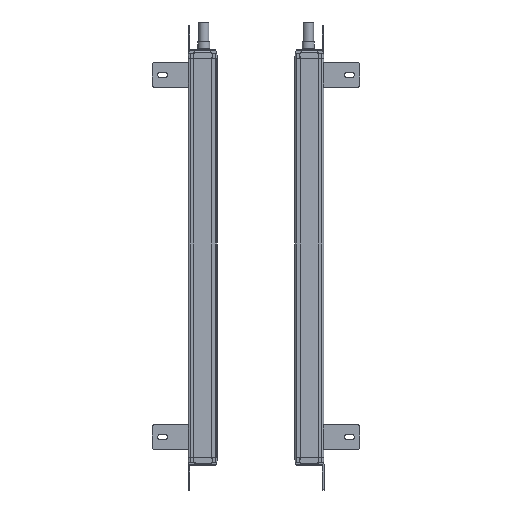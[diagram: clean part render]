
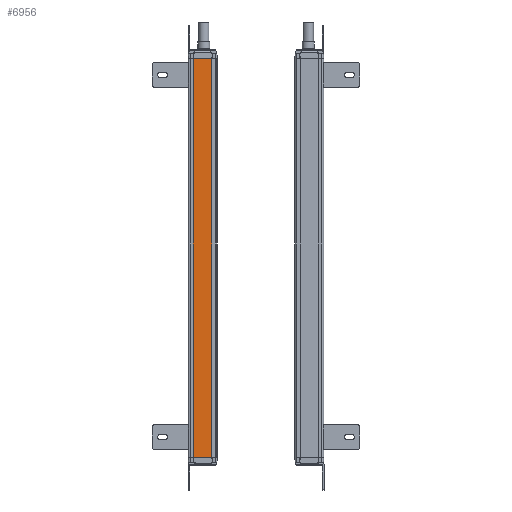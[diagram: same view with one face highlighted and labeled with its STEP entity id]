
A CAD part, left-side view. The second image highlights one B-rep face of the part: STEP entity #6956.
In plain terms, the highlighted planar face has unit normal (-1, 0, 0).
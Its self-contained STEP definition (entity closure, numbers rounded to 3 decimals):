
#953=FACE_OUTER_BOUND('',#9034,.T.);
#2188=LINE('',#33710,#4326);
#2290=LINE('',#34050,#4428);
#2291=LINE('',#34052,#4429);
#2292=LINE('',#34054,#4430);
#4326=VECTOR('',#26897,1.);
#4428=VECTOR('',#27185,1.);
#4429=VECTOR('',#27188,1.);
#4430=VECTOR('',#27189,1.);
#6178=PLANE('',#23723);
#6956=ADVANCED_FACE('',(#953),#6178,.T.);
#9034=EDGE_LOOP('',(#11681,#11682,#11683,#11684));
#11681=ORIENTED_EDGE('',*,*,#19828,.F.);
#11682=ORIENTED_EDGE('',*,*,#19829,.T.);
#11683=ORIENTED_EDGE('',*,*,#19830,.T.);
#11684=ORIENTED_EDGE('',*,*,#19658,.F.);
#17203=VERTEX_POINT('',#33709);
#17204=VERTEX_POINT('',#33711);
#17348=VERTEX_POINT('',#34049);
#17349=VERTEX_POINT('',#34053);
#19658=EDGE_CURVE('',#17203,#17204,#2188,.T.);
#19828=EDGE_CURVE('',#17348,#17203,#2290,.T.);
#19829=EDGE_CURVE('',#17348,#17349,#2291,.T.);
#19830=EDGE_CURVE('',#17349,#17204,#2292,.T.);
#23723=AXIS2_PLACEMENT_3D('',#34055,#27190,#27191);
#26897=DIRECTION('',(0.,-1.,0.));
#27185=DIRECTION('',(0.,0.,1.));
#27188=DIRECTION('',(0.,-1.,0.));
#27189=DIRECTION('',(0.,0.,1.));
#27190=DIRECTION('',(-1.,0.,0.));
#27191=DIRECTION('',(0.,-1.,0.));
#33709=CARTESIAN_POINT('',(233.846,104.141,31.645));
#33710=CARTESIAN_POINT('',(233.846,81.141,31.645));
#33711=CARTESIAN_POINT('',(233.846,81.141,31.645));
#34049=CARTESIAN_POINT('',(233.846,104.141,-463.355));
#34050=CARTESIAN_POINT('',(233.846,104.141,-155.355));
#34052=CARTESIAN_POINT('',(233.846,81.141,-463.355));
#34053=CARTESIAN_POINT('',(233.846,81.141,-463.355));
#34054=CARTESIAN_POINT('',(233.846,81.141,-155.355));
#34055=CARTESIAN_POINT('',(233.846,81.141,-50.355));
